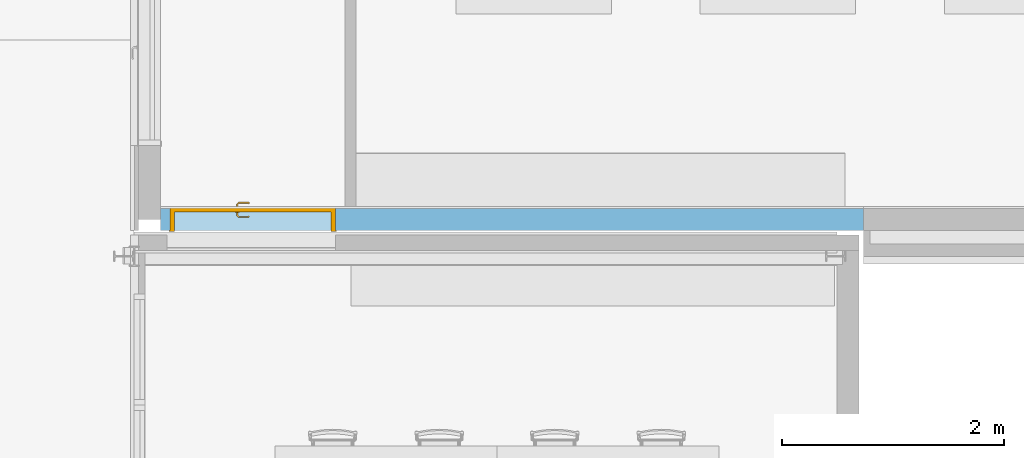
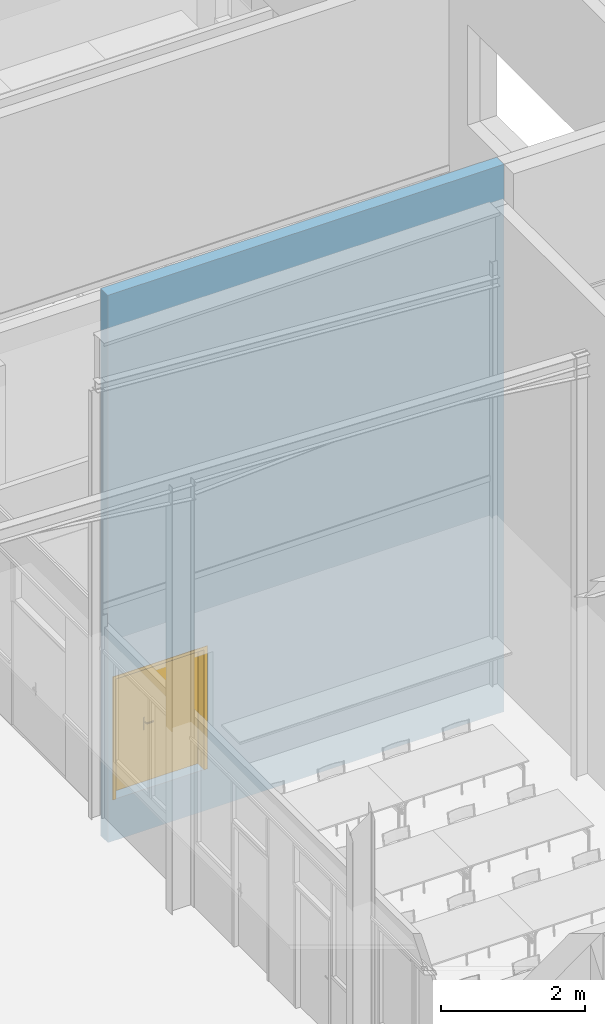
# One storey, part 92 of 137: 1 door, 1 opening, plus 1 element that does not belong to this part.
"""IFC2X3 building model written with IfcOpenShell, lengths in centimetres."""

from ifc_helpers import new_model, entity, si_unit, converted_unit, derived_unit, direction, frame, frame_2d, origin, place, context, subcontext, project, spatial, rectangle, extrude, faceted_brep, source, transform, mapped, material, material_list, layer, layer_set, layer_usage, type_object, type_shapes, element, fill, save


model = new_model("IFC2X3")

# Units and contexts
model_context = context("Model", 3, precision=0.001, world=origin(), true_north=direction((6.12303176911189e-17, 1.0)))
body_context = subcontext(model_context, "Body", "Model", "MODEL_VIEW")
ifc_project = project(units=[si_unit("LENGTHUNIT", "METRE", prefix="CENTI"), si_unit("AREAUNIT", "SQUARE_METRE"), si_unit("VOLUMEUNIT", "CUBIC_METRE"), converted_unit("PLANEANGLEUNIT", "DEGREE", entity("IfcRatioMeasure", 0.0174532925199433), si_unit("PLANEANGLEUNIT", "RADIAN"), dimensions=[0, 0, 0, 0, 0, 0, 0]), si_unit("MASSUNIT", "GRAM", prefix="KILO"), si_unit("TIMEUNIT", "SECOND"), si_unit("FREQUENCYUNIT", "HERTZ"), si_unit("THERMODYNAMICTEMPERATUREUNIT", "DEGREE_CELSIUS"), derived_unit("THERMALTRANSMITTANCEUNIT", [(si_unit("MASSUNIT", "GRAM", prefix="KILO"), 1), (si_unit("THERMODYNAMICTEMPERATUREUNIT", "KELVIN"), -1), (si_unit("TIMEUNIT", "SECOND"), -3)]), derived_unit("VOLUMETRICFLOWRATEUNIT", [(si_unit("LENGTHUNIT", "METRE"), 3), (si_unit("TIMEUNIT", "SECOND"), -1)]), si_unit("ELECTRICCURRENTUNIT", "AMPERE"), si_unit("ELECTRICVOLTAGEUNIT", "VOLT"), si_unit("POWERUNIT", "WATT"), si_unit("FORCEUNIT", "NEWTON", prefix="KILO"), si_unit("ILLUMINANCEUNIT", "LUX"), si_unit("LUMINOUSFLUXUNIT", "LUMEN"), si_unit("LUMINOUSINTENSITYUNIT", "CANDELA"), derived_unit("USERDEFINED", [(si_unit("MASSUNIT", "GRAM", prefix="KILO"), -1), (si_unit("LENGTHUNIT", "METRE"), -2), (si_unit("TIMEUNIT", "SECOND"), 3), (si_unit("LUMINOUSFLUXUNIT", "LUMEN"), 1)]), derived_unit("LINEARVELOCITYUNIT", [(si_unit("LENGTHUNIT", "METRE"), 1), (si_unit("TIMEUNIT", "SECOND"), -1)]), si_unit("PRESSUREUNIT", "PASCAL"), derived_unit("USERDEFINED", [(si_unit("LENGTHUNIT", "METRE"), -2), (si_unit("MASSUNIT", "GRAM", prefix="KILO"), 1), (si_unit("TIMEUNIT", "SECOND"), -2)])], contexts=[model_context])

# Site, building, storey
site_placement = place(None, frame((8.62739174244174, -249.285249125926, 0.0)))
site = spatial("IfcSite", under=ifc_project, at=site_placement, Name="Default", CompositionType="ELEMENT")
building_placement = place(site_placement, origin())
building = spatial("IfcBuilding", under=site, at=building_placement, CompositionType="ELEMENT")
storey_placement = place(building_placement, origin())
storey = spatial("IfcBuildingStorey", under=building, at=storey_placement, Name="RDC", CompositionType="ELEMENT", Elevation=-8.82465566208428e-11)

# Wall, opening, door
ifc_material_1 = material(Name="Béton, coulé sur place, gris")
ifc_layer = layer(ifc_material_1, 20.0)
ifc_layer_set = layer_set([ifc_layer], Name="Mur de base:BET 20")
ifc_layer_usage = layer_usage(ifc_layer_set, "AXIS2", "NEGATIVE", 10.0)
wall_type = type_object("IfcWallType", Name="Mur de base:BET 20", PredefinedType="STANDARD", material=ifc_layer_set)
wall_placement = place(storey_placement, frame((3686.90482780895, 2644.98020806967, -69.9999930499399), z_axis=(0.0, 0.0, 1.0), x_axis=(-1.0, 0.0, 0.0)))
wall = element("IfcWallStandardCase", 1, at=wall_placement, inside=storey, type_object=wall_type, material=ifc_layer_usage, Name="Mur de base:BET 20", ObjectType="Mur de base:BET 20", context=body_context, shape_type="SweptSolid", body=[
    extrude(rectangle(XDim=632.999999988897, YDim=19.9999999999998, at=frame_2d((316.499999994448, -6.21724893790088e-15), x_axis=(-1.0, 0.0))), origin(), (0.0, 0.0, 1.0), 924.999993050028),
])
opening_placement = place(wall_placement, frame((624.500000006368, 10.0, 69.9999930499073)))
opening = element("IfcOpeningElement", 2, at=opening_placement, cuts=wall, Name="Tierce(R)_bois_mu:143 x 204 cm:1", ObjectType="Opening", context=body_context, shape_type="SweptSolid", body=[
    extrude(rectangle(XDim=206.999999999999, YDim=149.0, at=frame_2d((103.499999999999, 74.4999999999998), x_axis=(1.0, 0.0))), frame((0.0, 0.0, 0.0), z_axis=(0.0, -1.0, 0.0), x_axis=(0.0, 0.0, 1.0)), (0.0, 0.0, 1.0), 20.0),
])
ifc_material_2 = material(Name="Aluminium-Dorma Metal-Anodized Silver")
ifc_material_3 = material(Name="Porte - Cadre")
ifc_material_4 = material(Name="Porte - Panneau")
ifc_material_list_1 = material_list([ifc_material_2, ifc_material_3, ifc_material_4])
ifc_material_list_2 = material_list([ifc_material_2, ifc_material_3, ifc_material_4])
door_style = type_object("IfcDoorStyle", Name="143 x 204 cm", ConstructionType="NOTDEFINED", OperationType="NOTDEFINED", ParameterTakesPrecedence=False, Sizeable=False, material=ifc_material_list_2)
shared_shape = source(origin(), body_context, "Body", "Brep", [
    faceted_brep([(88.7025298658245, 3.69999999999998, 100.778044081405), (88.2974701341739, 3.69999999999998, 100.778044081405), (87.8999999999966, 3.69999999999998, 100.699999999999), (87.8999999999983, 3.69999999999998, 99.3000000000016), (88.2974701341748, 3.69999999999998, 99.2219559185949), (88.7025298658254, 3.69999999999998, 99.2219559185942), (89.1000000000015, 3.69999999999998, 99.2999999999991), (89.1000000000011, 3.69999999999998, 100.699999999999), (87.8999999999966, 5.94852045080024, 100.699999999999), (87.8999999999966, 5.94852045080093, 99.3000000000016), (88.2974701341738, 6.1131579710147, 100.778044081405), (88.7025298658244, 6.2809392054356, 100.778044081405), (87.0838906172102, 7.89957845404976, 100.778044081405), (86.9161093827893, 7.49451872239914, 100.778044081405), (78.5793122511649, 7.49451872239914, 100.778044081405), (78.411531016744, 7.89957845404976, 100.778044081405), (77.6451046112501, 7.13315204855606, 100.778044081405), (77.9315250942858, 6.84673156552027, 100.778044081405), (89.1000000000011, 6.44557672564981, 100.699999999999), (89.1000000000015, 6.44557672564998, 99.2999999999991), (88.7025298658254, 6.28093920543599, 99.2219559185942), (88.2974701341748, 6.11315797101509, 99.2219559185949), (86.9161093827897, 7.49451872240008, 99.2219559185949), (87.0838906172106, 7.8995784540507, 99.2219559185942), (78.4115310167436, 7.8995784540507, 99.2219559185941), (78.5793122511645, 7.49451872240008, 99.2219559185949), (77.9315250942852, 6.84673156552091, 99.2219559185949), (77.6451046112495, 7.13315204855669, 99.2219559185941), (86.7514718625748, 7.09704858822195, 100.699999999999), (86.7514718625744, 7.09704858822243, 99.3000000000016), (87.2485281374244, 8.29704858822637, 100.699999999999), (87.2485281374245, 8.29704858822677, 99.2999999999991), (82.7477108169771, 7.09704858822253, 100.699999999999), (78.7439497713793, 7.09704858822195, 100.699999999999), (78.7439497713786, 7.09704858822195, 99.3000000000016), (82.7477108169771, 7.09704858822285, 99.3000000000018), (82.7477108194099, 7.71249275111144, 100.787811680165), (82.2399422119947, 8.29704858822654, 100.699999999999), (78.2468934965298, 8.29704858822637, 100.699999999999), (83.2554791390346, 8.29704858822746, 99.2999999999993), (78.2468934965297, 8.29704858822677, 99.2999999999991), (82.7477107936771, 7.71249274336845, 99.2121883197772), (77.3640507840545, 7.41420587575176, 100.699999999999), (77.364050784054, 7.41420587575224, 99.2999999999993), (78.2125789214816, 6.5656777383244, 99.3000000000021), (78.2125789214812, 6.56567773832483, 100.699999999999)], [[[0, 1, 2, 3, 4, 5, 6, 7]], [[8, 9, 3, 2]], [[1, 10, 8, 2]], [[1, 0, 11, 12, 13, 10]], [[14, 15, 16, 17]], [[7, 18, 11, 0]], [[18, 7, 6, 19]], [[6, 5, 20, 19]], [[5, 4, 21, 22, 23, 20]], [[24, 25, 26, 27]], [[4, 3, 9, 21]], [[28, 29, 9, 8]], [[8, 10, 13, 28]], [[18, 30, 12, 11]], [[31, 30, 18, 19]], [[19, 20, 23, 31]], [[21, 9, 29, 22]], [[29, 28, 32, 33, 34, 35]], [[36, 32, 13]], [[37, 38, 15]], [[37, 12, 30]], [[36, 12, 37]], [[14, 32, 36]], [[36, 15, 14]], [[28, 13, 32]], [[32, 14, 33]], [[12, 36, 13]], [[15, 36, 37]], [[30, 31, 39, 40, 38, 37]], [[23, 41, 39]], [[24, 39, 41]], [[39, 31, 23]], [[39, 24, 40]], [[22, 35, 41]], [[41, 23, 22]], [[41, 35, 25]], [[35, 22, 29]], [[34, 25, 35]], [[24, 41, 25]], [[17, 16, 42, 43, 27, 26, 44, 45]], [[45, 44, 34, 33]], [[33, 14, 17, 45]], [[15, 38, 42, 16]], [[43, 42, 38, 40]], [[24, 27, 43, 40]], [[34, 44, 26, 25]]]),
    faceted_brep([(88.2974701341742, -1.30000000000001, 100.778044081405), (88.7025298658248, -1.30000000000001, 100.778044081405), (89.1000000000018, -1.30000000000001, 100.699999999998), (89.1000000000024, -1.30000000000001, 99.2999999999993), (88.7025298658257, -1.30000000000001, 99.2219559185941), (88.297470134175, -1.30000000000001, 99.2219559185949), (87.899999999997, -1.30000000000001, 99.3000000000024), (87.8999999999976, -1.30000000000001, 100.699999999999), (88.7025298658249, -3.90045754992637, 100.778044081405), (89.100000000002, -4.06509507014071, 100.699999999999), (88.2974701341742, -3.73267631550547, 100.778044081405), (86.9298602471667, -5.10028620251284, 100.778044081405), (87.0976414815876, -5.50534593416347, 100.778044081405), (78.4142453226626, -5.50534593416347, 100.778044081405), (78.5820265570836, -5.10028620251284, 100.778044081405), (77.9342394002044, -4.4524990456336, 100.778044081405), (77.6478189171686, -4.73891952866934, 100.778044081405), (87.8999999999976, -3.56803879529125, 100.699999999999), (87.899999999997, -3.56803879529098, 99.3000000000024), (88.297470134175, -3.7326763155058, 99.2219559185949), (88.7025298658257, -3.9004575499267, 99.2219559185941), (87.097641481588, -5.50534593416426, 99.2219559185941), (86.9298602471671, -5.10028620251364, 99.2219559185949), (78.5820265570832, -5.10028620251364, 99.2219559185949), (78.4142453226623, -5.50534593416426, 99.2219559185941), (77.6478189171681, -4.73891952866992, 99.2219559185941), (77.9342394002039, -4.45249904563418, 99.2219559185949), (89.1000000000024, -4.06509507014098, 99.2999999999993), (87.2622790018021, -5.90281606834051, 100.699999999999), (86.7652227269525, -4.70281606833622, 100.699999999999), (86.7652227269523, -4.70281606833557, 99.3000000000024), (87.2622790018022, -5.90281606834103, 99.2999999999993), (82.7559433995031, -5.31828027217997, 100.787811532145), (83.269230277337, -5.90281606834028, 100.699999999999), (78.2496078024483, -5.90281606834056, 100.699999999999), (82.755943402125, -4.70281606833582, 100.699999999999), (78.7466640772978, -4.70281606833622, 100.699999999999), (82.7559436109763, -4.70281606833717, 99.3000000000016), (78.7466640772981, -4.70281606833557, 99.3000000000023), (82.7559434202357, -5.31828027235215, 99.2121884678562), (82.2426572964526, -5.90281606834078, 99.2999999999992), (78.249607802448, -5.90281606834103, 99.2999999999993), (78.2152932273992, -4.17144521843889, 99.3000000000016), (77.366765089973, -5.01997335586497, 99.2999999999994), (77.3667650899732, -5.01997335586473, 100.699999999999), (78.2152932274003, -4.17144521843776, 100.699999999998)], [[[0, 1, 2, 3, 4, 5, 6, 7]], [[2, 1, 8, 9]], [[1, 0, 10, 11, 12, 8]], [[13, 14, 15, 16]], [[0, 7, 17, 10]], [[18, 17, 7, 6]], [[5, 19, 18, 6]], [[5, 4, 20, 21, 22, 19]], [[23, 24, 25, 26]], [[3, 27, 20, 4]], [[9, 27, 3, 2]], [[9, 8, 12, 28]], [[10, 17, 29, 11]], [[30, 29, 17, 18]], [[18, 19, 22, 30]], [[20, 27, 31, 21]], [[28, 31, 27, 9]], [[12, 32, 33]], [[13, 33, 32]], [[33, 28, 12]], [[33, 13, 34]], [[11, 35, 32]], [[32, 12, 11]], [[32, 35, 14]], [[35, 11, 29]], [[36, 14, 35]], [[13, 32, 14]], [[29, 30, 37, 38, 36, 35]], [[39, 37, 22]], [[40, 41, 24]], [[40, 21, 31]], [[39, 21, 40]], [[23, 37, 39]], [[39, 24, 23]], [[30, 22, 37]], [[37, 23, 38]], [[21, 39, 22]], [[24, 39, 40]], [[31, 28, 33, 34, 41, 40]], [[42, 26, 25, 43, 44, 16, 15, 45]], [[13, 16, 44, 34]], [[36, 45, 15, 14]], [[42, 45, 36, 38]], [[38, 23, 26, 42]], [[24, 41, 43, 25]], [[44, 43, 41, 34]]]),
    faceted_brep([(88.4999999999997, 3.19999999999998, 86.4641016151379), (89.5352761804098, 3.19999999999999, 86.6003983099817), (90.4999999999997, 3.19999999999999, 87.0), (90.4999999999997, 3.19999999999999, 108.0), (89.5352761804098, 3.19999999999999, 108.399601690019), (88.4999999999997, 3.19999999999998, 108.535898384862), (87.4647238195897, 3.19999999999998, 108.399601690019), (86.4999999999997, 3.19999999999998, 108.0), (86.4999999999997, 3.19999999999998, 87.0), (87.4647238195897, 3.19999999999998, 86.6003983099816), (88.4999999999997, 3.69999999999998, 108.535898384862), (89.5352761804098, 3.69999999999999, 108.399601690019), (90.4999999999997, 3.69999999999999, 108.0), (90.4999999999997, 3.69999999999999, 87.0), (89.5352761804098, 3.69999999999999, 86.6003983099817), (88.4999999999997, 3.69999999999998, 86.4641016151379), (87.4647238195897, 3.69999999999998, 86.6003983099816), (86.4999999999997, 3.69999999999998, 87.0), (86.4999999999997, 3.69999999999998, 108.0), (87.4647238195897, 3.69999999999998, 108.399601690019)], [[[0, 1, 2, 3, 4, 5, 6, 7, 8, 9]], [[10, 11, 12, 13, 14, 15, 16, 17, 18, 19]], [[6, 19, 18, 7]], [[5, 10, 19, 6]], [[4, 11, 10, 5]], [[4, 3, 12, 11]], [[12, 3, 2, 13]], [[1, 14, 13, 2]], [[0, 15, 14, 1]], [[9, 16, 15, 0]], [[9, 8, 17, 16]], [[17, 8, 7, 18]]]),
    faceted_brep([(88.4999999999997, -1.30000000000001, 86.4641016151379), (89.5352761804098, -1.30000000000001, 86.6003983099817), (90.4999999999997, -1.30000000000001, 87.0), (90.4999999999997, -1.30000000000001, 108.0), (89.5352761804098, -1.30000000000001, 108.399601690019), (88.4999999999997, -1.30000000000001, 108.535898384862), (87.4647238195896, -1.30000000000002, 108.399601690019), (86.4999999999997, -1.30000000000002, 108.0), (86.4999999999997, -1.30000000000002, 87.0), (87.4647238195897, -1.30000000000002, 86.6003983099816), (90.4999999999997, -0.800000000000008, 108.0), (90.4999999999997, -0.800000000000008, 87.0), (89.5352761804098, -0.800000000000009, 86.6003983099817), (88.4999999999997, -0.800000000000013, 86.4641016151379), (87.4647238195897, -0.800000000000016, 86.6003983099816), (86.4999999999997, -0.800000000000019, 87.0), (86.4999999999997, -0.800000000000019, 108.0), (87.4647238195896, -0.800000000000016, 108.399601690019), (88.4999999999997, -0.800000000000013, 108.535898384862), (89.5352761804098, -0.800000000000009, 108.399601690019)], [[[0, 1, 2, 3, 4, 5, 6, 7, 8, 9]], [[10, 11, 12, 13, 14, 15, 16, 17, 18, 19]], [[1, 12, 11, 2]], [[0, 13, 12, 1]], [[9, 14, 13, 0]], [[9, 8, 15, 14]], [[15, 8, 7, 16]], [[6, 17, 16, 7]], [[5, 18, 17, 6]], [[4, 19, 18, 5]], [[4, 3, 10, 19]], [[10, 3, 2, 11]]]),
    faceted_brep([(0.0, 0.0, 0.0), (0.0, 20.0, 0.0), (-1.0, 20.0, 0.0), (-1.0, 20.8000000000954, 0.0), (4.0, 20.8000000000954, 0.0), (4.0, 3.2, 0.0), (3.0, 3.2, 0.0), (3.0, -0.799999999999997, 0.0), (-1.0, -0.799999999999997, 0.0), (-1.0, 0.0, 0.0), (0.0, 0.0, 207.0), (0.0, 20.0, 207.0), (149.0, 20.0, 207.0), (149.0, 20.0, 0.0), (150.0, 20.0, 0.0), (150.0, 20.0, 208.0), (-1.0, 20.0, 208.0), (-1.0, 20.8000000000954, 208.0), (150.0, 20.8000000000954, 208.0), (150.0, 20.8000000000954, 0.0), (145.0, 20.8000000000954, 0.0), (145.0, 20.8000000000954, 203.0), (4.0, 20.8000000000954, 203.0), (4.0, 3.2, 203.0), (145.0, 3.2, 203.0), (145.0, 3.2, 0.0), (146.0, 3.2, 0.0), (146.0, 3.2, 204.0), (3.0, 3.2, 204.0), (3.0, -0.799999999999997, 204.0), (146.0, -0.799999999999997, 204.0), (146.0, -0.799999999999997, 0.0), (150.0, -0.799999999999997, 0.0), (150.0, -0.799999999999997, 208.0), (-1.0, -0.799999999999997, 208.0), (-1.0, 0.0, 208.0), (150.0, 0.0, 208.0), (150.0, 0.0, 0.0), (149.0, 0.0, 0.0), (149.0, 0.0, 207.0)], [[[0, 1, 2, 3, 4, 5, 6, 7, 8, 9]], [[1, 0, 10, 11]], [[2, 1, 11, 12, 13, 14, 15, 16]], [[3, 2, 16, 17]], [[4, 3, 17, 18, 19, 20, 21, 22]], [[5, 4, 22, 23]], [[6, 5, 23, 24, 25, 26, 27, 28]], [[7, 6, 28, 29]], [[8, 7, 29, 30, 31, 32, 33, 34]], [[9, 8, 34, 35]], [[0, 9, 35, 36, 37, 38, 39, 10]], [[12, 39, 38, 13]], [[38, 37, 32, 31, 26, 25, 20, 19, 14, 13]], [[18, 15, 14, 19]], [[24, 21, 20, 25]], [[30, 27, 26, 31]], [[36, 33, 32, 37]], [[11, 10, 39, 12]], [[17, 16, 15, 18]], [[23, 22, 21, 24]], [[29, 28, 27, 30]], [[35, 34, 33, 36]]]),
    faceted_brep([(146.0, -0.799999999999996, 204.0), (94.0, -0.799999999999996, 204.0), (94.0, -0.799999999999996, 0.0), (146.0, -0.799999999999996, 0.0), (146.0, 3.2, 204.0), (146.0, 3.2, 0.0), (94.0, 3.2, 0.0), (94.0, 3.2, 204.0)], [[[0, 1, 2, 3]], [[4, 5, 6, 7]], [[1, 0, 4, 7]], [[2, 1, 7, 6]], [[3, 2, 6, 5]], [[0, 3, 5, 4]]]),
    faceted_brep([(3.0, -0.799999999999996, 0.0), (94.0, -0.799999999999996, 0.0), (94.0, -0.799999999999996, 204.0), (3.0, -0.799999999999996, 204.0), (3.0, 3.2, 0.0), (3.0, 3.2, 204.0), (94.0, 3.2, 204.0), (94.0, 3.2, 0.0)], [[[0, 1, 2, 3]], [[4, 5, 6, 7]], [[1, 0, 4, 7]], [[2, 1, 7, 6]], [[3, 2, 6, 5]], [[0, 3, 5, 4]]]),
])
type_shapes(door_style, [shared_shape])
door_placement = place(opening_placement, frame((-149.0, -20.0, 0.0)))
door = element("IfcDoor", 3, at=door_placement, inside=storey, type_object=door_style, material=ifc_material_list_1, Name="Tierce(R)_bois_mu:143 x 204 cm", ObjectType="143 x 204 cm", OverallHeight=206.999999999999, OverallWidth=148.999999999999, context=body_context, shape_type="MappedRepresentation", body=[
    mapped(shared_shape, transform((0.0, 0.0, 0.0), scale=1.0)),
])
fill(opening, door)

save(model, "model.ifc")
